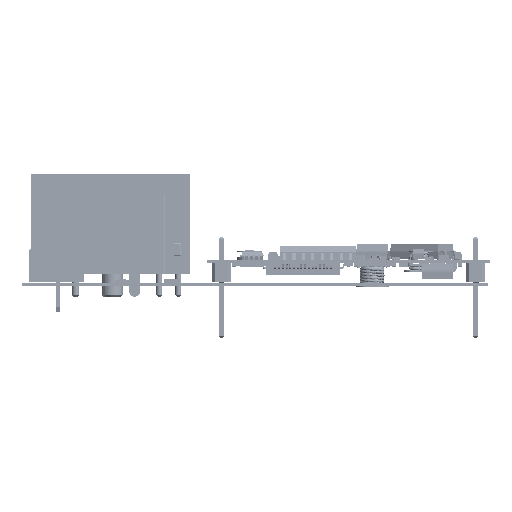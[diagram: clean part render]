
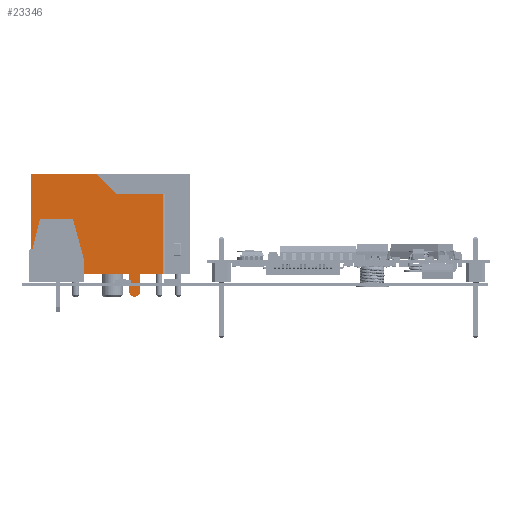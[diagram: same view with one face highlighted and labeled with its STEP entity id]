
A CAD part, front view. The second image highlights one B-rep face of the part: STEP entity #23346.
In plain terms, the highlighted planar face has unit normal (0, -1, 0) as drawn and (1, 0, 0) by its records, which use the part's own axes.
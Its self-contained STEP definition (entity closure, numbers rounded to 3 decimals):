
#20635 = VERTEX_POINT('',#20636);
#20636 = CARTESIAN_POINT('',(15.88,0.,0.));
#20642 = EDGE_CURVE('',#20635,#20643,#20645,.T.);
#20643 = VERTEX_POINT('',#20644);
#20644 = CARTESIAN_POINT('',(15.88,0.,-8.763));
#20645 = LINE('',#20646,#20647);
#20646 = CARTESIAN_POINT('',(15.88,0.,0.));
#20647 = VECTOR('',#20648,1.);
#20648 = DIRECTION('',(0.,0.,-1.));
#22817 = VERTEX_POINT('',#22818);
#22818 = CARTESIAN_POINT('',(15.88,-13.5,-17.748));
#22825 = EDGE_CURVE('',#22826,#22817,#22828,.T.);
#22826 = VERTEX_POINT('',#22827);
#22827 = CARTESIAN_POINT('',(15.88,-13.5,-14.72));
#22828 = LINE('',#22829,#22830);
#22829 = CARTESIAN_POINT('',(15.88,-13.5,0.));
#22830 = VECTOR('',#22831,1.);
#22831 = DIRECTION('',(0.,0.,-1.));
#22850 = VERTEX_POINT('',#22851);
#22851 = CARTESIAN_POINT('',(15.88,-13.5,-13.22));
#22857 = EDGE_CURVE('',#22858,#22850,#22860,.T.);
#22858 = VERTEX_POINT('',#22859);
#22859 = CARTESIAN_POINT('',(15.88,-13.5,0.));
#22860 = LINE('',#22861,#22862);
#22861 = CARTESIAN_POINT('',(15.88,-13.5,0.));
#22862 = VECTOR('',#22863,1.);
#22863 = DIRECTION('',(0.,0.,-1.));
#23346 = ADVANCED_FACE('',(#23347),#23403,.T.);
#23347 = FACE_BOUND('',#23348,.T.);
#23348 = EDGE_LOOP('',(#23349,#23350,#23358,#23366,#23372,#23373,#23379,
    #23380,#23388,#23397));
#23349 = ORIENTED_EDGE('',*,*,#22825,.T.);
#23350 = ORIENTED_EDGE('',*,*,#23351,.T.);
#23351 = EDGE_CURVE('',#22817,#23352,#23354,.T.);
#23352 = VERTEX_POINT('',#23353);
#23353 = CARTESIAN_POINT('',(15.88,-2.72,-17.748));
#23354 = LINE('',#23355,#23356);
#23355 = CARTESIAN_POINT('',(15.88,-2.72,-17.748));
#23356 = VECTOR('',#23357,1.);
#23357 = DIRECTION('',(0.,1.,0.));
#23358 = ORIENTED_EDGE('',*,*,#23359,.F.);
#23359 = EDGE_CURVE('',#23360,#23352,#23362,.T.);
#23360 = VERTEX_POINT('',#23361);
#23361 = CARTESIAN_POINT('',(15.88,-2.72,-11.529));
#23362 = LINE('',#23363,#23364);
#23363 = CARTESIAN_POINT('',(15.88,-2.72,0.));
#23364 = VECTOR('',#23365,1.);
#23365 = DIRECTION('',(0.,0.,-1.));
#23366 = ORIENTED_EDGE('',*,*,#23367,.F.);
#23367 = EDGE_CURVE('',#20643,#23360,#23368,.T.);
#23368 = LINE('',#23369,#23370);
#23369 = CARTESIAN_POINT('',(15.88,-2.257,-11.058));
#23370 = VECTOR('',#23371,1.);
#23371 = DIRECTION('',(0.,-0.701,-0.713));
#23372 = ORIENTED_EDGE('',*,*,#20642,.F.);
#23373 = ORIENTED_EDGE('',*,*,#23374,.F.);
#23374 = EDGE_CURVE('',#22858,#20635,#23375,.T.);
#23375 = LINE('',#23376,#23377);
#23376 = CARTESIAN_POINT('',(15.88,-13.5,0.));
#23377 = VECTOR('',#23378,1.);
#23378 = DIRECTION('',(0.,1.,0.));
#23379 = ORIENTED_EDGE('',*,*,#22857,.T.);
#23380 = ORIENTED_EDGE('',*,*,#23381,.T.);
#23381 = EDGE_CURVE('',#22850,#23382,#23384,.T.);
#23382 = VERTEX_POINT('',#23383);
#23383 = CARTESIAN_POINT('',(15.88,-15.75,-13.22));
#23384 = LINE('',#23385,#23386);
#23385 = CARTESIAN_POINT('',(15.88,-13.5,-13.22));
#23386 = VECTOR('',#23387,1.);
#23387 = DIRECTION('',(0.,-1.,0.));
#23388 = ORIENTED_EDGE('',*,*,#23389,.T.);
#23389 = EDGE_CURVE('',#23382,#23390,#23392,.T.);
#23390 = VERTEX_POINT('',#23391);
#23391 = CARTESIAN_POINT('',(15.88,-15.75,-14.72));
#23392 = CIRCLE('',#23393,0.75);
#23393 = AXIS2_PLACEMENT_3D('',#23394,#23395,#23396);
#23394 = CARTESIAN_POINT('',(15.88,-15.75,-13.97));
#23395 = DIRECTION('',(1.,0.,0.));
#23396 = DIRECTION('',(0.,0.,-1.));
#23397 = ORIENTED_EDGE('',*,*,#23398,.T.);
#23398 = EDGE_CURVE('',#23390,#22826,#23399,.T.);
#23399 = LINE('',#23400,#23401);
#23400 = CARTESIAN_POINT('',(15.88,-15.75,-14.72));
#23401 = VECTOR('',#23402,1.);
#23402 = DIRECTION('',(0.,1.,0.));
#23403 = PLANE('',#23404);
#23404 = AXIS2_PLACEMENT_3D('',#23405,#23406,#23407);
#23405 = CARTESIAN_POINT('',(15.88,-13.5,0.));
#23406 = DIRECTION('',(1.,0.,0.));
#23407 = DIRECTION('',(0.,0.,-1.));
